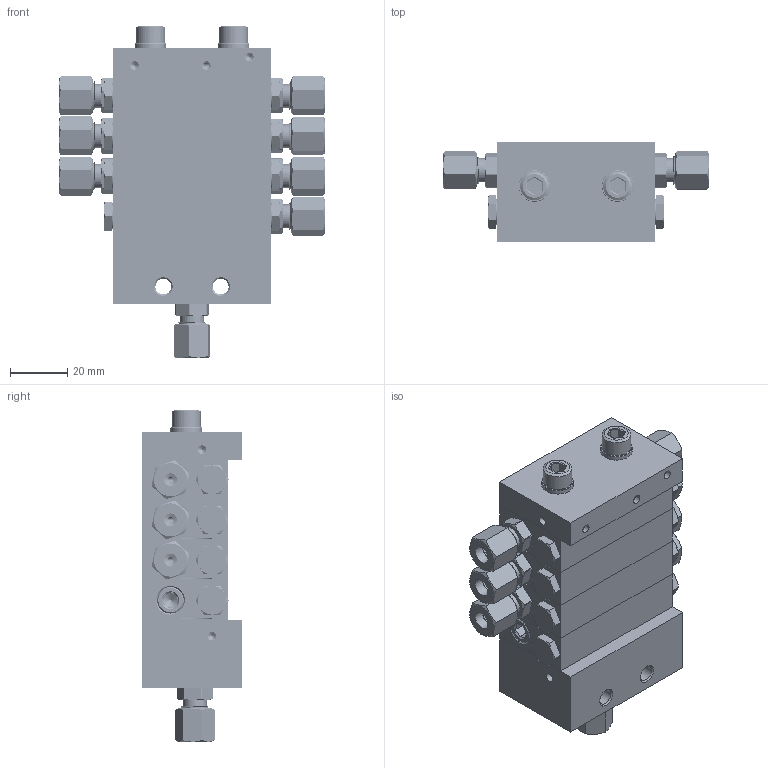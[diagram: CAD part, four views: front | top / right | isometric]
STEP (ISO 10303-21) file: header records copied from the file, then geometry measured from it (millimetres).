
FILE_DESCRIPTION (( 'STEP AP214' ), '1' );
FILE_NAME ('STW_XV_0143_07_050_7_Auslässe.STEP', '2026-01-28T14:39:01', ( '' ), ( '' ), 'SwSTEP 2.0', 'SolidWorks 2022', '' );
FILE_SCHEMA (( 'AUTOMOTIVE_DESIGN' ));
Length unit declared in the file: millimetre
Products named in the file (15): STW_XV_0143_07_050_7_Auslässe; STW_XV_ENGANG; 991214010601_Koerper; Verschlussstopfen_1_8_2; STW_XV_END; 991214010601_Mutter; STW_XV_Verbindungsstopen; M6X65_DIN_912; 991214010601_Schneidring; Verschlussstopfen_1_8; STW_XV_Kolbenanschlag; U_Scheibe_6; STW_XV_MITTEL_1; 991214010601; XV_Mittelelement
Assembly tree (43 placements, depth 3):
  STW_XV_0143_07_050_7_Auslässe
    STW_XV_ENGANG
    STW_XV_MITTEL_1  x3
    STW_XV_END
    Verschlussstopfen_1_8_2  x6
    STW_XV_Kolbenanschlag  x6
    STW_XV_Verbindungsstopen  x3
    M6X65_DIN_912  x2
    U_Scheibe_6  x2
    991214010601  x8
      991214010601_Koerper
      991214010601_Schneidring
      991214010601_Mutter
    XV_Mittelelement
      STW_XV_MITTEL_1
      STW_XV_Kolbenanschlag  x2
      Verschlussstopfen_1_8_2  x2
      STW_XV_Verbindungsstopen
    Verschlussstopfen_1_8
Bounding box: 92.76 x 35 x 115.68 mm (x, y, z)
Volume: 161768.8 mm3; surface area: 88246.7 mm2
Topology: 55 solids, 55 shells, 1840 faces, 4663 edges, 2996 vertices
Faces by surface type: plane 846, cylinder 531, cone 311, bspline 144, torus 8
Full cylindrical faces by diameter (mm): 2 x113, 3 x11, 4.5 x8, 5 x47, 5.5 x2, 5.9 x2, 6 x10, 6.2 x18, 6.4 x2, 6.5 x8, 7 x8, 7.4 x8, 7.67 x8, 8 x16, 8.3 x8, 8.4 x4, 8.6 x20, 9 x17, 9.7 x9, 9.73 x4, 9.8 x56, 10 x10, 11 x2, 15 x1
Entity records: 41402 total; most frequent: CARTESIAN_POINT 20631, ORIENTED_EDGE 2808, DIRECTION 2399, EDGE_CURVE 1404, VERTEX_POINT 997, EDGE_LOOP 925, AXIS2_PLACEMENT_3D 841, FACE_OUTER_BOUND 744
